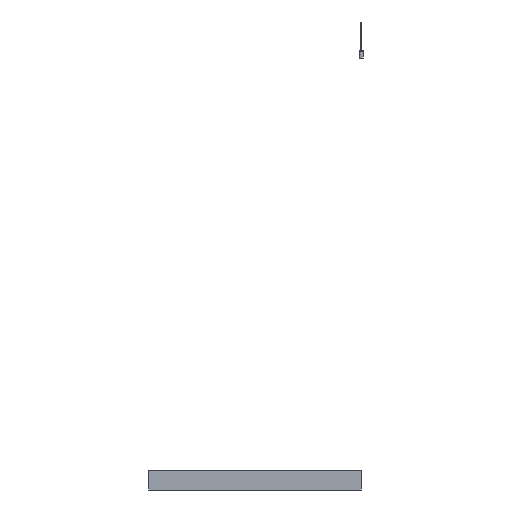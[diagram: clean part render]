
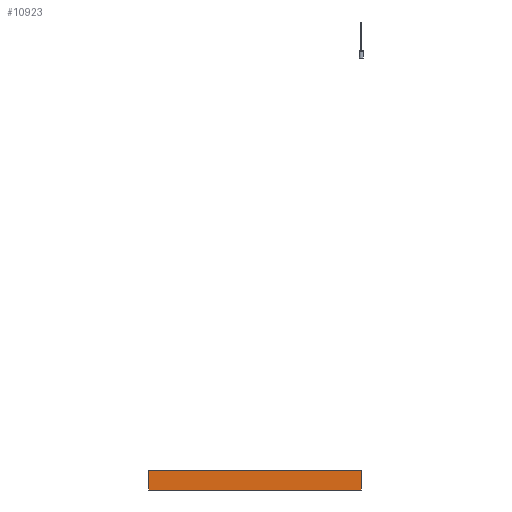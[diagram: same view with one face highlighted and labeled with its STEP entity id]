
A CAD part, left-side view. The second image highlights one B-rep face of the part: STEP entity #10923.
In plain terms, the highlighted planar face has unit normal (-1, 0, 0) as drawn and (0, -1, 0) by its records, which use the part's own axes.
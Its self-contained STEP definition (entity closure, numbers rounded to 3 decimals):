
#7956 = CARTESIAN_POINT ( 'NONE',  ( 123., -123., 0. ) ) ;
#7971 = CARTESIAN_POINT ( 'NONE',  ( 123., -123., 22. ) ) ;
#7981 = DIRECTION ( 'NONE',  ( 0., 0., -1. ) ) ;
#7982 = VECTOR ( 'NONE', #7981, 1000. ) ;
#7983 = CARTESIAN_POINT ( 'NONE',  ( 123., -123., 22. ) ) ;
#7984 = LINE ( 'NONE', #7983, #7982 ) ;
#9815 = CARTESIAN_POINT ( 'NONE',  ( -123., -123., 0. ) ) ;
#9928 = DIRECTION ( 'NONE',  ( 1., 0., 0. ) ) ;
#9929 = VECTOR ( 'NONE', #9928, 1000. ) ;
#9930 = CARTESIAN_POINT ( 'NONE',  ( -123., -123., 22. ) ) ;
#9936 = LINE ( 'NONE', #9930, #9929 ) ;
#9967 = CARTESIAN_POINT ( 'NONE',  ( -123., -123., 22. ) ) ;
#9968 = DIRECTION ( 'NONE',  ( 0., 0., -1. ) ) ;
#9969 = VECTOR ( 'NONE', #9968, 1000. ) ;
#9970 = CARTESIAN_POINT ( 'NONE',  ( -123., -123., 22. ) ) ;
#9971 = LINE ( 'NONE', #9970, #9969 ) ;
#9988 = DIRECTION ( 'NONE',  ( 1., 0., 0. ) ) ;
#9989 = VECTOR ( 'NONE', #9988, 1000. ) ;
#9990 = CARTESIAN_POINT ( 'NONE',  ( -123., -123., 0. ) ) ;
#9997 = LINE ( 'NONE', #9990, #9989 ) ;
#10064 = DIRECTION ( 'NONE',  ( 0., 0., 1. ) ) ;
#10065 = DIRECTION ( 'NONE',  ( 0., 1., 0. ) ) ;
#10066 = CARTESIAN_POINT ( 'NONE',  ( -123., -123., 22. ) ) ;
#10068 = AXIS2_PLACEMENT_3D ( 'NONE', #10066, #10065, #10064 ) ;
#10069 = PLANE ( 'NONE',  #10068 ) ;
#10070 = FACE_OUTER_BOUND ( 'NONE', #10924, .T. ) ;
#10811 = VERTEX_POINT ( 'NONE', #9815 ) ;
#10842 = ORIENTED_EDGE ( 'NONE', *, *, #10907, .T. ) ;
#10889 = EDGE_CURVE ( ' 6', #10908, #18280, #9936, .T. ) ;
#10890 = ORIENTED_EDGE ( 'NONE', *, *, #10896, .T. ) ;
#10891 = ORIENTED_EDGE ( 'NONE', *, *, #18304, .F. ) ;
#10895 = ORIENTED_EDGE ( 'NONE', *, *, #10889, .F. ) ;
#10896 = EDGE_CURVE ( ' 9', #10811, #18288, #9997, .T. ) ;
#10907 = EDGE_CURVE ( ' 4', #10908, #10811, #9971, .T. ) ;
#10908 = VERTEX_POINT ( 'NONE', #9967 ) ;
#10923 = ADVANCED_FACE ( ' 2', ( #10070 ), #10069, .F. ) ;
#10924 = EDGE_LOOP ( 'NONE', ( #10890, #10891, #10895, #10842 ) ) ;
#18280 = VERTEX_POINT ( 'NONE', #7971 ) ;
#18288 = VERTEX_POINT ( 'NONE', #7956 ) ;
#18304 = EDGE_CURVE ( 'NONE', #18280, #18288, #7984, .T. ) ;
